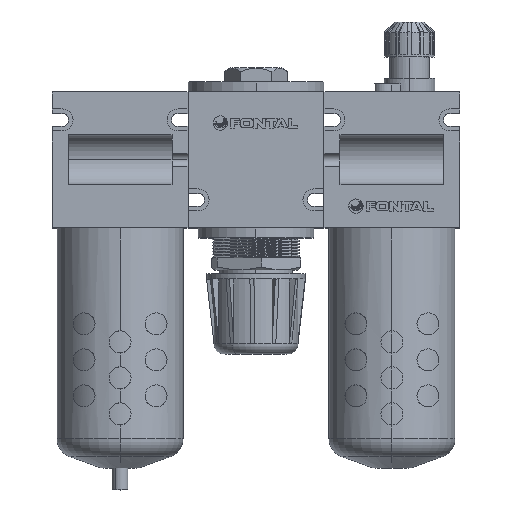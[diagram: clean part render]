
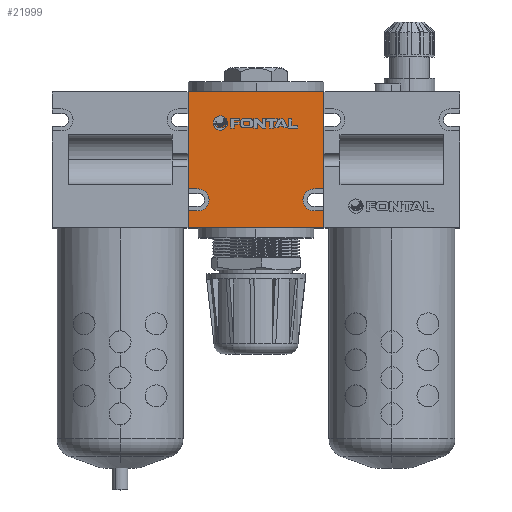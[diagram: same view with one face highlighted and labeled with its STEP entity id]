
A CAD part, top view. The second image highlights one B-rep face of the part: STEP entity #21999.
In plain terms, the highlighted planar face has unit normal (0, 0, 1).
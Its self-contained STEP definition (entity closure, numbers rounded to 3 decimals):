
#34 = LINE ( 'NONE', #4392, #18582 ) ;
#90 = VECTOR ( 'NONE', #7566, 1000. ) ;
#213 = LINE ( 'NONE', #18528, #18754 ) ;
#265 = DIRECTION ( 'NONE',  ( -1., 0., 0. ) ) ;
#286 = CARTESIAN_POINT ( 'NONE',  ( 29., 25.5, 34. ) ) ;
#545 = DIRECTION ( 'NONE',  ( 1., 0., 0. ) ) ;
#807 = CARTESIAN_POINT ( 'NONE',  ( 34., 34., 34. ) ) ;
#817 = VERTEX_POINT ( 'NONE', #5621 ) ;
#939 = EDGE_CURVE ( 'NONE', #5832, #11518, #7956, .T. ) ;
#1378 = CARTESIAN_POINT ( 'NONE',  ( -29., 14.5, 34. ) ) ;
#1418 = VECTOR ( 'NONE', #19286, 1000. ) ;
#1554 = DIRECTION ( 'NONE',  ( 0., 1., 0. ) ) ;
#2046 = CARTESIAN_POINT ( 'NONE',  ( -29., 25.5, 34. ) ) ;
#2220 = LINE ( 'NONE', #22990, #2496 ) ;
#2383 = DIRECTION ( 'NONE',  ( 0., 0., 1. ) ) ;
#2496 = VECTOR ( 'NONE', #1554, 1000. ) ;
#2692 = DIRECTION ( 'NONE',  ( 0., 1., 0. ) ) ;
#3348 = ORIENTED_EDGE ( 'NONE', *, *, #12061, .T. ) ;
#3785 = EDGE_CURVE ( 'NONE', #7640, #817, #34, .T. ) ;
#3927 = EDGE_CURVE ( 'NONE', #817, #22395, #14340, .T. ) ;
#4056 = VECTOR ( 'NONE', #14218, 1000. ) ;
#4192 = CARTESIAN_POINT ( 'NONE',  ( -34., 34., 34. ) ) ;
#4239 = VERTEX_POINT ( 'NONE', #14652 ) ;
#4392 = CARTESIAN_POINT ( 'NONE',  ( -34., 34., 34. ) ) ;
#4727 = CARTESIAN_POINT ( 'NONE',  ( 34., 14.5, 34. ) ) ;
#5276 = EDGE_CURVE ( 'NONE', #22395, #20312, #2220, .T. ) ;
#5295 = CARTESIAN_POINT ( 'NONE',  ( -34., 14.5, 34. ) ) ;
#5621 = CARTESIAN_POINT ( 'NONE',  ( -34., -34., 34. ) ) ;
#5774 = ORIENTED_EDGE ( 'NONE', *, *, #8155, .T. ) ;
#5832 = VERTEX_POINT ( 'NONE', #6684 ) ;
#6223 = CIRCLE ( 'NONE', #10237, 5.5 ) ;
#6251 = AXIS2_PLACEMENT_3D ( 'NONE', #10108, #14058, #22790 ) ;
#6684 = CARTESIAN_POINT ( 'NONE',  ( -34., 34., 34. ) ) ;
#6796 = EDGE_CURVE ( 'NONE', #13631, #19845, #18195, .T. ) ;
#7181 = DIRECTION ( 'NONE',  ( -1., 0., 0. ) ) ;
#7203 = EDGE_CURVE ( 'NONE', #9323, #10024, #10825, .T. ) ;
#7566 = DIRECTION ( 'NONE',  ( 0., -1., 0. ) ) ;
#7640 = VERTEX_POINT ( 'NONE', #5295 ) ;
#7726 = CARTESIAN_POINT ( 'NONE',  ( -29., 20., 34. ) ) ;
#7956 = LINE ( 'NONE', #4192, #90 ) ;
#8142 = DIRECTION ( 'NONE',  ( 0., -1., 0. ) ) ;
#8155 = EDGE_CURVE ( 'NONE', #20312, #4239, #19804, .T. ) ;
#8357 = DIRECTION ( 'NONE',  ( 0., 0., 1. ) ) ;
#8591 = VECTOR ( 'NONE', #14495, 1000. ) ;
#8646 = CARTESIAN_POINT ( 'NONE',  ( -23.5, 20., 34. ) ) ;
#9323 = VERTEX_POINT ( 'NONE', #11678 ) ;
#10024 = VERTEX_POINT ( 'NONE', #11365 ) ;
#10108 = CARTESIAN_POINT ( 'NONE',  ( 0., 0., 34. ) ) ;
#10237 = AXIS2_PLACEMENT_3D ( 'NONE', #13784, #8357, #15834 ) ;
#10274 = FACE_OUTER_BOUND ( 'NONE', #19129, .T. ) ;
#10497 = CARTESIAN_POINT ( 'NONE',  ( 34., 14.5, 34. ) ) ;
#10765 = CARTESIAN_POINT ( 'NONE',  ( 29., 20., 34. ) ) ;
#10796 = EDGE_CURVE ( 'NONE', #19845, #11518, #19419, .T. ) ;
#10825 = LINE ( 'NONE', #286, #8591 ) ;
#11334 = DIRECTION ( 'NONE',  ( 1., 0., 0. ) ) ;
#11365 = CARTESIAN_POINT ( 'NONE',  ( 34., 25.5, 34. ) ) ;
#11518 = VERTEX_POINT ( 'NONE', #15175 ) ;
#11678 = CARTESIAN_POINT ( 'NONE',  ( 29., 25.5, 34. ) ) ;
#12061 = EDGE_CURVE ( 'NONE', #4239, #9323, #17475, .T. ) ;
#12101 = VECTOR ( 'NONE', #7181, 1000. ) ;
#12265 = ORIENTED_EDGE ( 'NONE', *, *, #939, .T. ) ;
#13631 = VERTEX_POINT ( 'NONE', #8646 ) ;
#13784 = CARTESIAN_POINT ( 'NONE',  ( -29., 20., 34. ) ) ;
#14058 = DIRECTION ( 'NONE',  ( 0., 0., 1. ) ) ;
#14218 = DIRECTION ( 'NONE',  ( -1., 0., 0. ) ) ;
#14340 = LINE ( 'NONE', #15771, #1418 ) ;
#14495 = DIRECTION ( 'NONE',  ( 1., 0., 0. ) ) ;
#14504 = ORIENTED_EDGE ( 'NONE', *, *, #6796, .F. ) ;
#14511 = ORIENTED_EDGE ( 'NONE', *, *, #22243, .T. ) ;
#14621 = ORIENTED_EDGE ( 'NONE', *, *, #5276, .T. ) ;
#14652 = CARTESIAN_POINT ( 'NONE',  ( 29., 14.5, 34. ) ) ;
#14827 = CARTESIAN_POINT ( 'NONE',  ( 34., 34., 34. ) ) ;
#14958 = AXIS2_PLACEMENT_3D ( 'NONE', #7726, #2383, #11334 ) ;
#14987 = EDGE_CURVE ( 'NONE', #7640, #19088, #213, .T. ) ;
#15175 = CARTESIAN_POINT ( 'NONE',  ( -34., 25.5, 34. ) ) ;
#15771 = CARTESIAN_POINT ( 'NONE',  ( -34., -34., 34. ) ) ;
#15834 = DIRECTION ( 'NONE',  ( 1., 0., 0. ) ) ;
#16080 = CARTESIAN_POINT ( 'NONE',  ( -29., 25.5, 34. ) ) ;
#16461 = CARTESIAN_POINT ( 'NONE',  ( -34., 34., 34. ) ) ;
#16463 = VECTOR ( 'NONE', #2692, 1000. ) ;
#16603 = ORIENTED_EDGE ( 'NONE', *, *, #7203, .T. ) ;
#17149 = ORIENTED_EDGE ( 'NONE', *, *, #3785, .T. ) ;
#17447 = PLANE ( 'NONE',  #6251 ) ;
#17475 = CIRCLE ( 'NONE', #22205, 5.5 ) ;
#17491 = VERTEX_POINT ( 'NONE', #14827 ) ;
#17591 = ORIENTED_EDGE ( 'NONE', *, *, #21010, .T. ) ;
#17855 = DIRECTION ( 'NONE',  ( 0., 0., -1. ) ) ;
#17948 = ORIENTED_EDGE ( 'NONE', *, *, #3927, .T. ) ;
#18048 = EDGE_CURVE ( 'NONE', #19088, #13631, #6223, .T. ) ;
#18195 = CIRCLE ( 'NONE', #14958, 5.5 ) ;
#18528 = CARTESIAN_POINT ( 'NONE',  ( -34., 14.5, 34. ) ) ;
#18582 = VECTOR ( 'NONE', #8142, 1000. ) ;
#18754 = VECTOR ( 'NONE', #545, 1000. ) ;
#19088 = VERTEX_POINT ( 'NONE', #1378 ) ;
#19129 = EDGE_LOOP ( 'NONE', ( #14621, #5774, #3348, #16603, #14511, #17591, #12265, #22674, #14504, #21145, #20759, #17149, #17948 ) ) ;
#19259 = CARTESIAN_POINT ( 'NONE',  ( 34., -34., 34. ) ) ;
#19286 = DIRECTION ( 'NONE',  ( 1., 0., 0. ) ) ;
#19419 = LINE ( 'NONE', #16080, #12101 ) ;
#19804 = LINE ( 'NONE', #4727, #4056 ) ;
#19845 = VERTEX_POINT ( 'NONE', #2046 ) ;
#19872 = VECTOR ( 'NONE', #265, 1000. ) ;
#20169 = LINE ( 'NONE', #16461, #19872 ) ;
#20312 = VERTEX_POINT ( 'NONE', #10497 ) ;
#20405 = LINE ( 'NONE', #807, #16463 ) ;
#20759 = ORIENTED_EDGE ( 'NONE', *, *, #14987, .F. ) ;
#21010 = EDGE_CURVE ( 'NONE', #17491, #5832, #20169, .T. ) ;
#21145 = ORIENTED_EDGE ( 'NONE', *, *, #18048, .F. ) ;
#21999 = ADVANCED_FACE ( 'NONE', ( #10274 ), #17447, .T. ) ;
#22205 = AXIS2_PLACEMENT_3D ( 'NONE', #10765, #17855, #23044 ) ;
#22243 = EDGE_CURVE ( 'NONE', #10024, #17491, #20405, .T. ) ;
#22395 = VERTEX_POINT ( 'NONE', #19259 ) ;
#22674 = ORIENTED_EDGE ( 'NONE', *, *, #10796, .F. ) ;
#22790 = DIRECTION ( 'NONE',  ( 1., 0., 0. ) ) ;
#22990 = CARTESIAN_POINT ( 'NONE',  ( 34., 34., 34. ) ) ;
#23044 = DIRECTION ( 'NONE',  ( -1., 0., 0. ) ) ;
